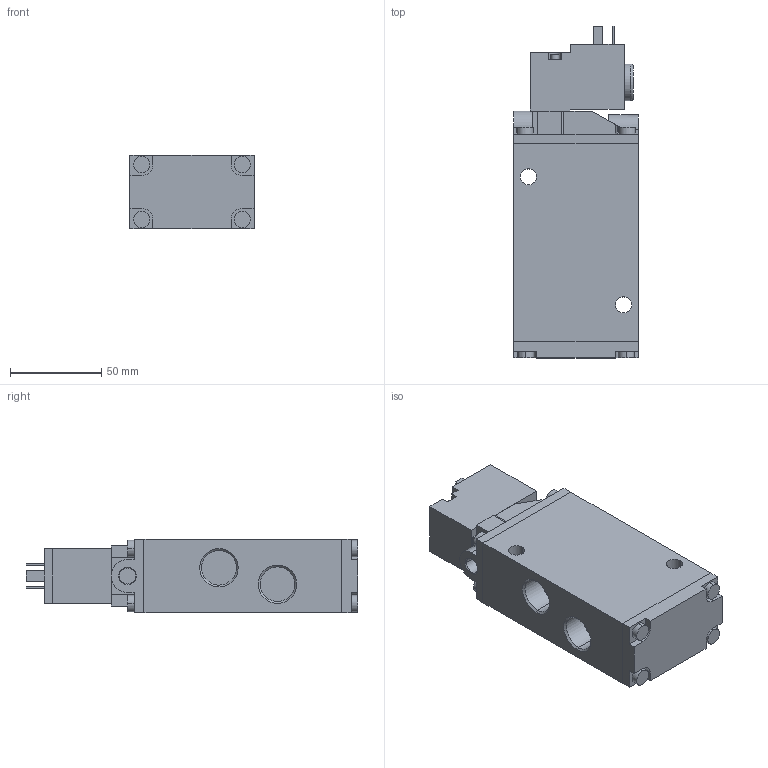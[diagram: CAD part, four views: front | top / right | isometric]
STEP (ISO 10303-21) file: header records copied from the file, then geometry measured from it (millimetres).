
FILE_DESCRIPTION((''),'2;1');
FILE_NAME('5724555270','2015-03-23T',('mla1hc'),(''),'PRO/ENGINEER BY PARAMETRIC TECHNOLOGY CORPORATION, 2011490','PRO/ENGINEER BY PARAMETRIC TECHNOLOGY CORPORATION, 2011490','');
FILE_SCHEMA(('AUTOMOTIVE_DESIGN_CC2 { 1 2 10303 214 -1 1 5 2 }'));
Length unit declared in the file: millimetre
Products named in the file (1): 5724555270
Bounding box: 68 x 181.5 x 40 mm (x, y, z)
Volume: 385301.3 mm3; surface area: 50277.1 mm2
Topology: 1 solids, 1 shells, 196 faces, 483 edges, 315 vertices
Faces by surface type: plane 125, cylinder 57, cone 12, torus 2
Entity records: 5792 total; most frequent: CARTESIAN_POINT 1020, DIRECTION 993, ORIENTED_EDGE 966, EDGE_CURVE 483, VECTOR 349, LINE 349, AXIS2_PLACEMENT_3D 322, VERTEX_POINT 315
